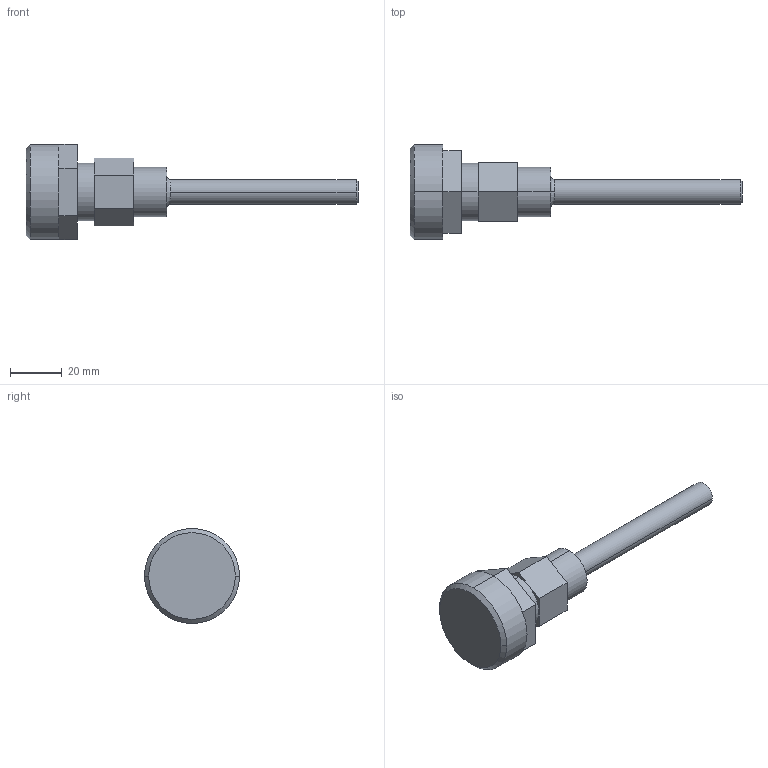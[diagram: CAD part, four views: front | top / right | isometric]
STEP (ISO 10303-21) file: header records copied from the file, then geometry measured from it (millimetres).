
FILE_DESCRIPTION (( 'STEP AP214' ), '1' );
FILE_NAME ('06-tube-out-with-top-mount-adapter.STEP', '2012-11-28T15:29:50', ( '' ), ( '' ), 'SwSTEP 2.0', 'SolidWorks 2012', '' );
FILE_SCHEMA (( 'AUTOMOTIVE_DESIGN' ));
Length unit declared in the file: inch
Products named in the file (1): 06-tube-out-with-top-mount-adapter
Bounding box: 127.94 x 36.6 x 36.66 mm (x, y, z)
Volume: 37578.3 mm3; surface area: 8927.6 mm2
Topology: 1 solids, 1 shells, 45 faces, 102 edges, 63 vertices
Faces by surface type: plane 30, cylinder 8, cone 4, torus 2, bspline 1
Entity records: 1362 total; most frequent: CARTESIAN_POINT 244, DIRECTION 232, ORIENTED_EDGE 204, EDGE_CURVE 102, AXIS2_PLACEMENT_3D 86, VERTEX_POINT 63, LINE 60, VECTOR 60
